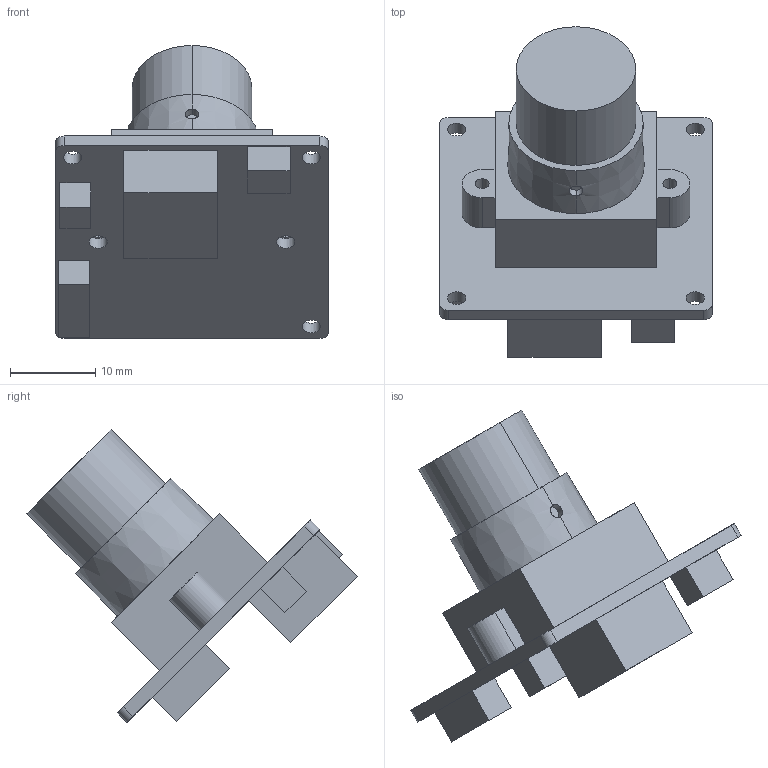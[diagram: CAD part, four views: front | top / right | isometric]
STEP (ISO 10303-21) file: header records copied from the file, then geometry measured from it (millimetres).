
FILE_DESCRIPTION((''),'2;1');
FILE_NAME('BCAM-S32-00-A_ASM','2022-08-05T',('USER'),(''),'PRO/ENGINEER BY PARAMETRIC TECHNOLOGY CORPORATION, 2012300','PRO/ENGINEER BY PARAMETRIC TECHNOLOGY CORPORATION, 2012300','');
FILE_SCHEMA(('CONFIG_CONTROL_DESIGN'));
Length unit declared in the file: millimetre
Products named in the file (8): MANIFOLD_SOLID_BREP_115742; MM-11A_1_ASM_ASM; LENS_PCB_A_2; LENS_ASSY_ASM_1_ASM_ASM; 01_IR_ASM_1_ASM_ASM; 00_MINI_DOME_ASM_2_ASM_ASM; BCAM-S32-00-A_ASM_ASM; BCAM-S32-00-A_ASM
Assembly tree (7 placements, depth 7):
  BCAM-S32-00-A_ASM
    BCAM-S32-00-A_ASM_ASM
      00_MINI_DOME_ASM_2_ASM_ASM
        01_IR_ASM_1_ASM_ASM
          LENS_ASSY_ASM_1_ASM_ASM
            MM-11A_1_ASM_ASM
              MANIFOLD_SOLID_BREP_115742
            LENS_PCB_A_2
Bounding box: 32 x 38.75 x 34.37 mm (x, y, z)
Volume: 8532.4 mm3; surface area: 5451.6 mm2
Topology: 2 solids, 2 shells, 84 faces, 211 edges, 140 vertices
Faces by surface type: plane 53, cylinder 29, cone 2
Entity records: 2811 total; most frequent: CARTESIAN_POINT 504, DIRECTION 473, ORIENTED_EDGE 422, EDGE_CURVE 211, AXIS2_PLACEMENT_3D 161, VECTOR 151, LINE 151, VERTEX_POINT 140
